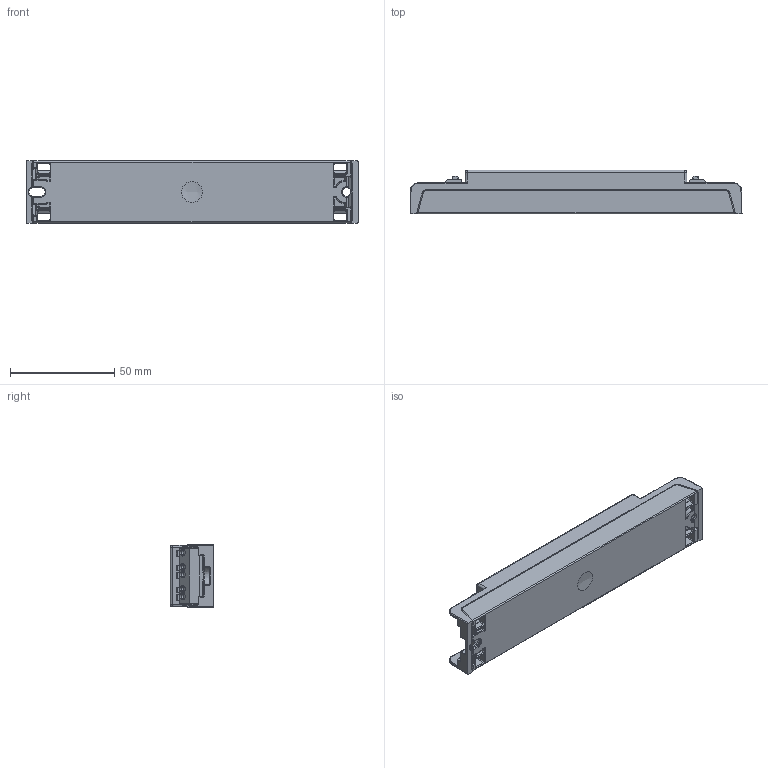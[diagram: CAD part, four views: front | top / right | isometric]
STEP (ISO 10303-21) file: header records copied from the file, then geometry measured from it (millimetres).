
FILE_DESCRIPTION(/* description */ (''),/* implementation_level */ '2;1');
FILE_NAME(/* name */ 'Y:\Inventor\Tridonic\Datamec\20190830_Daten_Roger\28000882\28000882.stp',/* time_stamp */ '2019-12-30T11:08:23+01:00',/* author */ ('muell'),/* organization */ (''),/* preprocessor_version */ 'ST-DEVELOPER v16.5',/* originating_system */ 'Autodesk Inventor 2017',/* authorisation */ '');
FILE_SCHEMA (('AUTOMOTIVE_DESIGN { 1 0 10303 214 3 1 1 }'));
Length unit declared in the file: millimetre
Products named in the file (1): 28000882
Bounding box: 159 x 21 x 30 mm (x, y, z)
Volume: 78755.6 mm3; surface area: 22891.1 mm2
Topology: 1 solids, 1 shells, 1149 faces, 3120 edges, 1920 vertices
Faces by surface type: plane 557, cylinder 378, bspline 113, sphere 47, cone 32, torus 22
Entity records: 43147 total; most frequent: CARTESIAN_POINT 13328, ORIENTED_EDGE 6184, DIRECTION 5820, EDGE_CURVE 3092, LINE 2020, VECTOR 2020, VERTEX_POINT 1920, AXIS2_PLACEMENT_3D 1900
